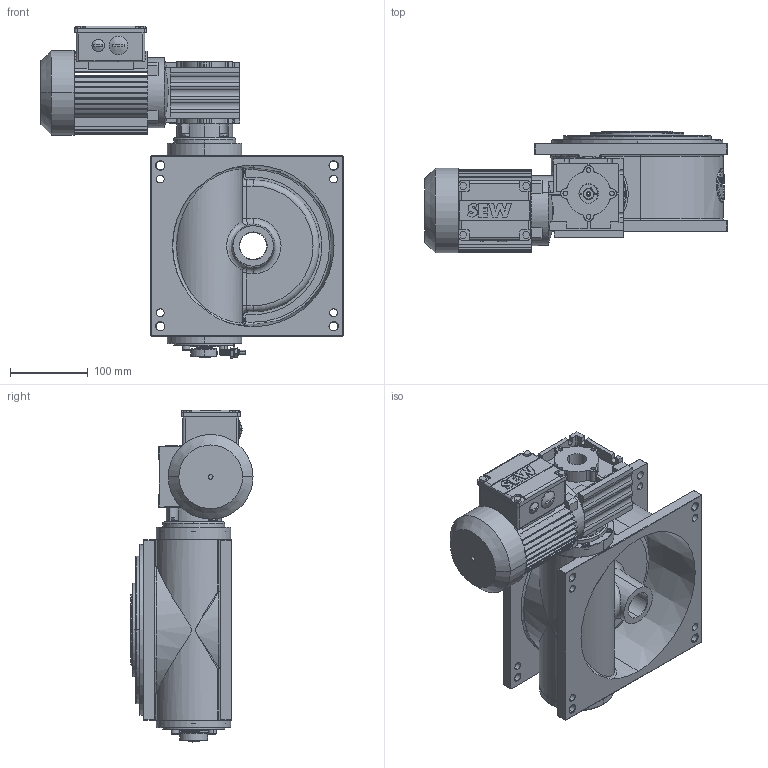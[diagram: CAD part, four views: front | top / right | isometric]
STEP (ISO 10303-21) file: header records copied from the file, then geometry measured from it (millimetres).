
FILE_DESCRIPTION (( 'STEP AP214' ), '1' );
FILE_NAME ('M190_SEW_WAF10DT56L4_D3.STEP', '2021-01-25T15:28:16', ( '' ), ( '' ), 'SwSTEP 2.0', 'SolidWorks 2020', '' );
FILE_SCHEMA (( 'AUTOMOTIVE_DESIGN' ));
Length unit declared in the file: millimetre
Products named in the file (1): M190_SEW_WAF10DT56L4_D3
Bounding box: 389.5 x 157.1 x 427.25 mm (x, y, z)
Surface area: 571978 mm2 (no closed solid volume)
Topology: 0 solids, 59 shells, 1462 faces, 4642 edges, 3088 vertices
Faces by surface type: plane 665, cylinder 483, cone 152, bspline 87, torus 63, sphere 12
Entity records: 75676 total; most frequent: CARTESIAN_POINT 19207, DIRECTION 8504, ORIENTED_EDGE 7877, EDGE_CURVE 4607, VERTEX_POINT 3088, AXIS2_PLACEMENT_3D 2947, LINE 2610, VECTOR 2610
